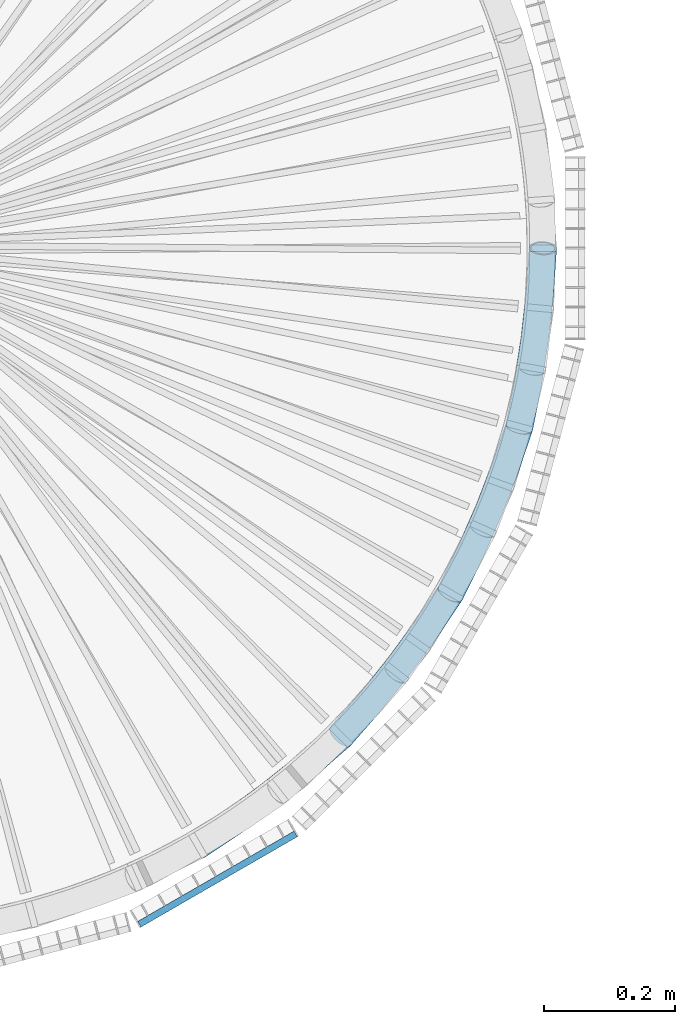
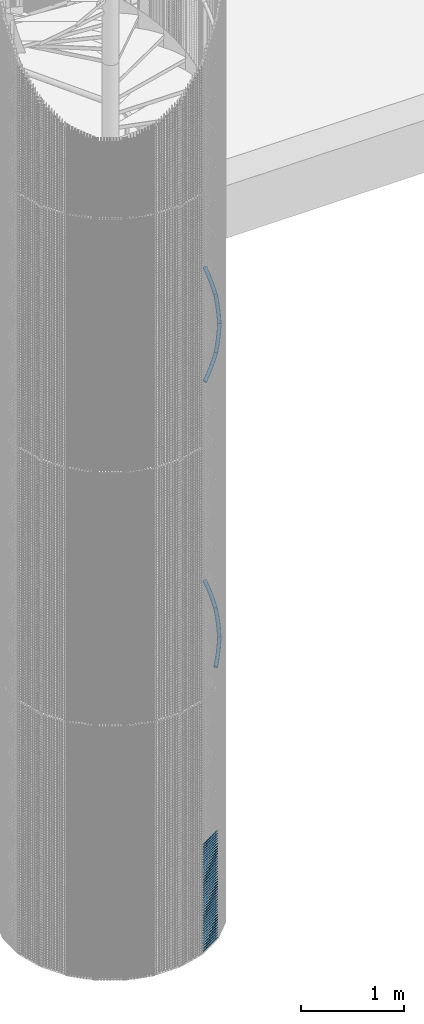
# One storey, part 259 of 1148: 43 beams, 7 members, 8 elements without a shape of their own.
"""IFC2X3 building model written with IfcOpenShell, lengths in millimetres."""

from ifc_helpers import new_model, entity, si_unit, frame, origin_with_axes, origin_2d_with_axis, place, context, subcontext, project, spatial, rectangle, extrude, material, type_object, element, aggregate, save


model = new_model("IFC2X3")

# Units and contexts
model_context = context("Model", 3, precision=1e-05, world=origin_with_axes())
body_context = subcontext(model_context, "Body", "Model", "MODEL_VIEW")
ifc_project = project(units=[si_unit("LENGTHUNIT", "METRE", prefix="MILLI"), si_unit("AREAUNIT", "SQUARE_METRE"), si_unit("VOLUMEUNIT", "CUBIC_METRE"), si_unit("MASSUNIT", "GRAM", prefix="KILO"), si_unit("TIMEUNIT", "SECOND"), si_unit("PLANEANGLEUNIT", "RADIAN"), si_unit("SOLIDANGLEUNIT", "STERADIAN"), si_unit("THERMODYNAMICTEMPERATUREUNIT", "DEGREE_CELSIUS"), si_unit("LUMINOUSINTENSITYUNIT", "LUMEN")], contexts=[model_context])

# Site, building, storey
site_placement = place(None, origin_with_axes())
site = spatial("IfcSite", under=ifc_project, at=site_placement, Name="Undefined", CompositionType="ELEMENT")
building_placement = place(site_placement, origin_with_axes())
building = spatial("IfcBuilding", under=site, at=building_placement, Name="Undefined", CompositionType="ELEMENT")
storey_placement = place(building_placement, origin_with_axes())
storey = spatial("IfcBuildingStorey", under=building, at=storey_placement, Name="Undefined", CompositionType="ELEMENT", Elevation=0.0)

# Assembly, beams
assembly_1_placement = place(storey_placement, origin_with_axes())
assembly_1 = element("IfcElementAssembly", 1, at=assembly_1_placement, inside=storey, Name="BORDURE", AssemblyPlace="NOTDEFINED", PredefinedType="NOTDEFINED")
ifc_material = material(Name="STEEL/S235JR")
beam_type = type_object("IfcBeamType", Name="PL2*10", PredefinedType="NOTDEFINED")
beam_1_placement = place(assembly_1_placement, frame((437.231955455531, -1033.29996828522, 1290.0), z_axis=(0.499999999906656, -0.866025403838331, 0.0), x_axis=(0.866025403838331, 0.499999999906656, 0.0)))
beam_1 = element("IfcBeam", 2, at=beam_1_placement, type_object=beam_type, material=ifc_material, Name="ENTRETOISE", context=body_context, shape_type="SweptSolid", body=[
    extrude(rectangle(XDim=2.0, YDim=10.0, at=origin_2d_with_axis()), frame((275.999999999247, 9.09494701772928e-13, 1.53210777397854e-14), z_axis=(-1.0, 0.0, 0.0), x_axis=(0.0, -1.0, 0.0)), (0.0, 0.0, 1.0), 276.0),
])
beam_2_placement = place(assembly_1_placement, frame((437.231955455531, -1033.29996828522, 1260.0), z_axis=(0.499999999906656, -0.866025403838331, 0.0), x_axis=(0.866025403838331, 0.499999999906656, 0.0)))
beam_2 = element("IfcBeam", 3, at=beam_2_placement, type_object=beam_type, material=ifc_material, Name="ENTRETOISE", context=body_context, shape_type="SweptSolid", body=[
    extrude(rectangle(XDim=2.0, YDim=10.0, at=origin_2d_with_axis()), frame((275.999999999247, 9.09494701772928e-13, 1.53210777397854e-14), z_axis=(-1.0, 0.0, 0.0), x_axis=(0.0, -1.0, 0.0)), (0.0, 0.0, 1.0), 276.0),
])
beam_3_placement = place(assembly_1_placement, frame((437.231955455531, -1033.29996828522, 1230.0), z_axis=(0.499999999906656, -0.866025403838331, 0.0), x_axis=(0.866025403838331, 0.499999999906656, 0.0)))
beam_3 = element("IfcBeam", 4, at=beam_3_placement, type_object=beam_type, material=ifc_material, Name="ENTRETOISE", context=body_context, shape_type="SweptSolid", body=[
    extrude(rectangle(XDim=2.0, YDim=10.0, at=origin_2d_with_axis()), frame((275.999999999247, 9.09494701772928e-13, 1.53210777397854e-14), z_axis=(-1.0, 0.0, 0.0), x_axis=(0.0, -1.0, 0.0)), (0.0, 0.0, 1.0), 276.0),
])
beam_4_placement = place(assembly_1_placement, frame((437.231955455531, -1033.29996828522, 1200.0), z_axis=(0.499999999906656, -0.866025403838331, 0.0), x_axis=(0.866025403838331, 0.499999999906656, 0.0)))
beam_4 = element("IfcBeam", 5, at=beam_4_placement, type_object=beam_type, material=ifc_material, Name="ENTRETOISE", context=body_context, shape_type="SweptSolid", body=[
    extrude(rectangle(XDim=2.0, YDim=10.0, at=origin_2d_with_axis()), frame((275.999999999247, 9.09494701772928e-13, 1.53210777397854e-14), z_axis=(-1.0, 0.0, 0.0), x_axis=(0.0, -1.0, 0.0)), (0.0, 0.0, 1.0), 276.0),
])
beam_5_placement = place(assembly_1_placement, frame((437.231955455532, -1033.29996828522, 1170.0), z_axis=(0.499999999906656, -0.866025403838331, 0.0), x_axis=(0.866025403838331, 0.499999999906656, 0.0)))
beam_5 = element("IfcBeam", 6, at=beam_5_placement, type_object=beam_type, material=ifc_material, Name="ENTRETOISE", context=body_context, shape_type="SweptSolid", body=[
    extrude(rectangle(XDim=2.0, YDim=10.0, at=origin_2d_with_axis()), frame((275.999999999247, 9.09494701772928e-13, 1.53210777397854e-14), z_axis=(-1.0, 0.0, 0.0), x_axis=(0.0, -1.0, 0.0)), (0.0, 0.0, 1.0), 276.0),
])
beam_6_placement = place(assembly_1_placement, frame((437.231955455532, -1033.29996828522, 1140.0), z_axis=(0.499999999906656, -0.866025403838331, 0.0), x_axis=(0.866025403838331, 0.499999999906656, 0.0)))
beam_6 = element("IfcBeam", 7, at=beam_6_placement, type_object=beam_type, material=ifc_material, Name="ENTRETOISE", context=body_context, shape_type="SweptSolid", body=[
    extrude(rectangle(XDim=2.0, YDim=10.0, at=origin_2d_with_axis()), frame((275.999999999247, 9.09494701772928e-13, 1.53210777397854e-14), z_axis=(-1.0, 0.0, 0.0), x_axis=(0.0, -1.0, 0.0)), (0.0, 0.0, 1.0), 276.0),
])
beam_7_placement = place(assembly_1_placement, frame((437.231955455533, -1033.29996828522, 719.999999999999), z_axis=(0.499999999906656, -0.866025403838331, 0.0), x_axis=(0.866025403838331, 0.499999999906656, 0.0)))
beam_7 = element("IfcBeam", 8, at=beam_7_placement, type_object=beam_type, material=ifc_material, Name="ENTRETOISE", context=body_context, shape_type="SweptSolid", body=[
    extrude(rectangle(XDim=2.0, YDim=10.0, at=origin_2d_with_axis()), frame((275.999999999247, 9.09494701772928e-13, 1.53210777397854e-14), z_axis=(-1.0, 0.0, 0.0), x_axis=(0.0, -1.0, 0.0)), (0.0, 0.0, 1.0), 276.0),
])
beam_8_placement = place(assembly_1_placement, frame((437.231955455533, -1033.29996828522, 689.999999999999), z_axis=(0.499999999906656, -0.866025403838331, 0.0), x_axis=(0.866025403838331, 0.499999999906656, 0.0)))
beam_8 = element("IfcBeam", 9, at=beam_8_placement, type_object=beam_type, material=ifc_material, Name="ENTRETOISE", context=body_context, shape_type="SweptSolid", body=[
    extrude(rectangle(XDim=2.0, YDim=10.0, at=origin_2d_with_axis()), frame((275.999999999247, 9.09494701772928e-13, 1.53210777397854e-14), z_axis=(-1.0, 0.0, 0.0), x_axis=(0.0, -1.0, 0.0)), (0.0, 0.0, 1.0), 276.0),
])
beam_9_placement = place(assembly_1_placement, frame((437.231955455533, -1033.29996828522, 749.999999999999), z_axis=(0.499999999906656, -0.866025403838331, 0.0), x_axis=(0.866025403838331, 0.499999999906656, 0.0)))
beam_9 = element("IfcBeam", 10, at=beam_9_placement, type_object=beam_type, material=ifc_material, Name="ENTRETOISE", context=body_context, shape_type="SweptSolid", body=[
    extrude(rectangle(XDim=2.0, YDim=10.0, at=origin_2d_with_axis()), frame((275.999999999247, 9.09494701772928e-13, 1.53210777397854e-14), z_axis=(-1.0, 0.0, 0.0), x_axis=(0.0, -1.0, 0.0)), (0.0, 0.0, 1.0), 276.0),
])
beam_10_placement = place(assembly_1_placement, frame((437.231955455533, -1033.29996828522, 659.999999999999), z_axis=(0.499999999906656, -0.866025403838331, 0.0), x_axis=(0.866025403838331, 0.499999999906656, 0.0)))
beam_10 = element("IfcBeam", 11, at=beam_10_placement, type_object=beam_type, material=ifc_material, Name="ENTRETOISE", context=body_context, shape_type="SweptSolid", body=[
    extrude(rectangle(XDim=2.0, YDim=10.0, at=origin_2d_with_axis()), frame((275.999999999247, 9.09494701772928e-13, 1.53210777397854e-14), z_axis=(-1.0, 0.0, 0.0), x_axis=(0.0, -1.0, 0.0)), (0.0, 0.0, 1.0), 276.0),
])
beam_11_placement = place(assembly_1_placement, frame((437.231955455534, -1033.29996828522, 629.999999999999), z_axis=(0.499999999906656, -0.866025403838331, 0.0), x_axis=(0.866025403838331, 0.499999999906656, 0.0)))
beam_11 = element("IfcBeam", 12, at=beam_11_placement, type_object=beam_type, material=ifc_material, Name="ENTRETOISE", context=body_context, shape_type="SweptSolid", body=[
    extrude(rectangle(XDim=2.0, YDim=10.0, at=origin_2d_with_axis()), frame((275.999999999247, 9.09494701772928e-13, 1.53210777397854e-14), z_axis=(-1.0, 0.0, 0.0), x_axis=(0.0, -1.0, 0.0)), (0.0, 0.0, 1.0), 276.0),
])
beam_12_placement = place(assembly_1_placement, frame((437.231955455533, -1033.29996828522, 779.999999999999), z_axis=(0.499999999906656, -0.866025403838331, 0.0), x_axis=(0.866025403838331, 0.499999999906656, 0.0)))
beam_12 = element("IfcBeam", 13, at=beam_12_placement, type_object=beam_type, material=ifc_material, Name="ENTRETOISE", context=body_context, shape_type="SweptSolid", body=[
    extrude(rectangle(XDim=2.0, YDim=10.0, at=origin_2d_with_axis()), frame((275.999999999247, 9.09494701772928e-13, 1.53210777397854e-14), z_axis=(-1.0, 0.0, 0.0), x_axis=(0.0, -1.0, 0.0)), (0.0, 0.0, 1.0), 276.0),
])
beam_13_placement = place(assembly_1_placement, frame((437.231955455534, -1033.29996828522, 599.999999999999), z_axis=(0.499999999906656, -0.866025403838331, 0.0), x_axis=(0.866025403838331, 0.499999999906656, 0.0)))
beam_13 = element("IfcBeam", 14, at=beam_13_placement, type_object=beam_type, material=ifc_material, Name="ENTRETOISE", context=body_context, shape_type="SweptSolid", body=[
    extrude(rectangle(XDim=2.0, YDim=10.0, at=origin_2d_with_axis()), frame((275.999999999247, 9.09494701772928e-13, 1.53210777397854e-14), z_axis=(-1.0, 0.0, 0.0), x_axis=(0.0, -1.0, 0.0)), (0.0, 0.0, 1.0), 276.0),
])
beam_14_placement = place(assembly_1_placement, frame((437.231955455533, -1033.29996828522, 809.999999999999), z_axis=(0.499999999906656, -0.866025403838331, 0.0), x_axis=(0.866025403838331, 0.499999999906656, 0.0)))
beam_14 = element("IfcBeam", 15, at=beam_14_placement, type_object=beam_type, material=ifc_material, Name="ENTRETOISE", context=body_context, shape_type="SweptSolid", body=[
    extrude(rectangle(XDim=2.0, YDim=10.0, at=origin_2d_with_axis()), frame((275.999999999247, 9.09494701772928e-13, 1.53210777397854e-14), z_axis=(-1.0, 0.0, 0.0), x_axis=(0.0, -1.0, 0.0)), (0.0, 0.0, 1.0), 276.0),
])
beam_15_placement = place(assembly_1_placement, frame((437.231955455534, -1033.29996828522, 569.999999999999), z_axis=(0.499999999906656, -0.866025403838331, 0.0), x_axis=(0.866025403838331, 0.499999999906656, 0.0)))
beam_15 = element("IfcBeam", 16, at=beam_15_placement, type_object=beam_type, material=ifc_material, Name="ENTRETOISE", context=body_context, shape_type="SweptSolid", body=[
    extrude(rectangle(XDim=2.0, YDim=10.0, at=origin_2d_with_axis()), frame((275.999999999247, 9.09494701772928e-13, 1.53210777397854e-14), z_axis=(-1.0, 0.0, 0.0), x_axis=(0.0, -1.0, 0.0)), (0.0, 0.0, 1.0), 276.0),
])
beam_16_placement = place(assembly_1_placement, frame((437.231955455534, -1033.29996828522, 539.999999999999), z_axis=(0.499999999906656, -0.866025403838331, 0.0), x_axis=(0.866025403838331, 0.499999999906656, 0.0)))
beam_16 = element("IfcBeam", 17, at=beam_16_placement, type_object=beam_type, material=ifc_material, Name="ENTRETOISE", context=body_context, shape_type="SweptSolid", body=[
    extrude(rectangle(XDim=2.0, YDim=10.0, at=origin_2d_with_axis()), frame((275.999999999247, 9.09494701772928e-13, 1.53210777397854e-14), z_axis=(-1.0, 0.0, 0.0), x_axis=(0.0, -1.0, 0.0)), (0.0, 0.0, 1.0), 276.0),
])
beam_17_placement = place(assembly_1_placement, frame((437.231955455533, -1033.29996828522, 839.999999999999), z_axis=(0.499999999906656, -0.866025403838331, 0.0), x_axis=(0.866025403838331, 0.499999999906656, 0.0)))
beam_17 = element("IfcBeam", 18, at=beam_17_placement, type_object=beam_type, material=ifc_material, Name="ENTRETOISE", context=body_context, shape_type="SweptSolid", body=[
    extrude(rectangle(XDim=2.0, YDim=10.0, at=origin_2d_with_axis()), frame((275.999999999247, 9.09494701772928e-13, 1.53210777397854e-14), z_axis=(-1.0, 0.0, 0.0), x_axis=(0.0, -1.0, 0.0)), (0.0, 0.0, 1.0), 276.0),
])
beam_18_placement = place(assembly_1_placement, frame((437.231955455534, -1033.29996828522, 509.999999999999), z_axis=(0.499999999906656, -0.866025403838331, 0.0), x_axis=(0.866025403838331, 0.499999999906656, 0.0)))
beam_18 = element("IfcBeam", 19, at=beam_18_placement, type_object=beam_type, material=ifc_material, Name="ENTRETOISE", context=body_context, shape_type="SweptSolid", body=[
    extrude(rectangle(XDim=2.0, YDim=10.0, at=origin_2d_with_axis()), frame((275.999999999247, 9.09494701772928e-13, 1.53210777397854e-14), z_axis=(-1.0, 0.0, 0.0), x_axis=(0.0, -1.0, 0.0)), (0.0, 0.0, 1.0), 276.0),
])
beam_19_placement = place(assembly_1_placement, frame((437.231955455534, -1033.29996828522, 479.999999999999), z_axis=(0.499999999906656, -0.866025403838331, 0.0), x_axis=(0.866025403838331, 0.499999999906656, 0.0)))
beam_19 = element("IfcBeam", 20, at=beam_19_placement, type_object=beam_type, material=ifc_material, Name="ENTRETOISE", context=body_context, shape_type="SweptSolid", body=[
    extrude(rectangle(XDim=2.0, YDim=10.0, at=origin_2d_with_axis()), frame((275.999999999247, 9.09494701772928e-13, 1.53210777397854e-14), z_axis=(-1.0, 0.0, 0.0), x_axis=(0.0, -1.0, 0.0)), (0.0, 0.0, 1.0), 276.0),
])
beam_20_placement = place(assembly_1_placement, frame((437.231955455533, -1033.29996828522, 869.999999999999), z_axis=(0.499999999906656, -0.866025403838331, 0.0), x_axis=(0.866025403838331, 0.499999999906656, 0.0)))
beam_20 = element("IfcBeam", 21, at=beam_20_placement, type_object=beam_type, material=ifc_material, Name="ENTRETOISE", context=body_context, shape_type="SweptSolid", body=[
    extrude(rectangle(XDim=2.0, YDim=10.0, at=origin_2d_with_axis()), frame((275.999999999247, 9.09494701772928e-13, 1.53210777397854e-14), z_axis=(-1.0, 0.0, 0.0), x_axis=(0.0, -1.0, 0.0)), (0.0, 0.0, 1.0), 276.0),
])
beam_21_placement = place(assembly_1_placement, frame((437.231955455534, -1033.29996828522, 449.999999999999), z_axis=(0.499999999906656, -0.866025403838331, 0.0), x_axis=(0.866025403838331, 0.499999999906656, 0.0)))
beam_21 = element("IfcBeam", 22, at=beam_21_placement, type_object=beam_type, material=ifc_material, Name="ENTRETOISE", context=body_context, shape_type="SweptSolid", body=[
    extrude(rectangle(XDim=2.0, YDim=10.0, at=origin_2d_with_axis()), frame((275.999999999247, 9.09494701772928e-13, 1.53210777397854e-14), z_axis=(-1.0, 0.0, 0.0), x_axis=(0.0, -1.0, 0.0)), (0.0, 0.0, 1.0), 276.0),
])
beam_22_placement = place(assembly_1_placement, frame((437.231955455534, -1033.29996828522, 419.999999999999), z_axis=(0.499999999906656, -0.866025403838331, 0.0), x_axis=(0.866025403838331, 0.499999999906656, 0.0)))
beam_22 = element("IfcBeam", 23, at=beam_22_placement, type_object=beam_type, material=ifc_material, Name="ENTRETOISE", context=body_context, shape_type="SweptSolid", body=[
    extrude(rectangle(XDim=2.0, YDim=10.0, at=origin_2d_with_axis()), frame((275.999999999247, 9.09494701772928e-13, 1.53210777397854e-14), z_axis=(-1.0, 0.0, 0.0), x_axis=(0.0, -1.0, 0.0)), (0.0, 0.0, 1.0), 276.0),
])
beam_23_placement = place(assembly_1_placement, frame((437.231955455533, -1033.29996828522, 899.999999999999), z_axis=(0.499999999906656, -0.866025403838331, 0.0), x_axis=(0.866025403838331, 0.499999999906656, 0.0)))
beam_23 = element("IfcBeam", 24, at=beam_23_placement, type_object=beam_type, material=ifc_material, Name="ENTRETOISE", context=body_context, shape_type="SweptSolid", body=[
    extrude(rectangle(XDim=2.0, YDim=10.0, at=origin_2d_with_axis()), frame((275.999999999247, 9.09494701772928e-13, 1.53210777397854e-14), z_axis=(-1.0, 0.0, 0.0), x_axis=(0.0, -1.0, 0.0)), (0.0, 0.0, 1.0), 276.0),
])
beam_24_placement = place(assembly_1_placement, frame((437.231955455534, -1033.29996828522, 389.999999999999), z_axis=(0.499999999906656, -0.866025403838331, 0.0), x_axis=(0.866025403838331, 0.499999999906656, 0.0)))
beam_24 = element("IfcBeam", 25, at=beam_24_placement, type_object=beam_type, material=ifc_material, Name="ENTRETOISE", context=body_context, shape_type="SweptSolid", body=[
    extrude(rectangle(XDim=2.0, YDim=10.0, at=origin_2d_with_axis()), frame((275.999999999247, 9.09494701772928e-13, 1.53210777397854e-14), z_axis=(-1.0, 0.0, 0.0), x_axis=(0.0, -1.0, 0.0)), (0.0, 0.0, 1.0), 276.0),
])
beam_25_placement = place(assembly_1_placement, frame((437.231955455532, -1033.29996828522, 929.999999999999), z_axis=(0.499999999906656, -0.866025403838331, 0.0), x_axis=(0.866025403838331, 0.499999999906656, 0.0)))
beam_25 = element("IfcBeam", 26, at=beam_25_placement, type_object=beam_type, material=ifc_material, Name="ENTRETOISE", context=body_context, shape_type="SweptSolid", body=[
    extrude(rectangle(XDim=2.0, YDim=10.0, at=origin_2d_with_axis()), frame((275.999999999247, 9.09494701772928e-13, 1.53210777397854e-14), z_axis=(-1.0, 0.0, 0.0), x_axis=(0.0, -1.0, 0.0)), (0.0, 0.0, 1.0), 276.0),
])
beam_26_placement = place(assembly_1_placement, frame((437.231955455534, -1033.29996828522, 359.999999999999), z_axis=(0.499999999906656, -0.866025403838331, 0.0), x_axis=(0.866025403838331, 0.499999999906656, 0.0)))
beam_26 = element("IfcBeam", 27, at=beam_26_placement, type_object=beam_type, material=ifc_material, Name="ENTRETOISE", context=body_context, shape_type="SweptSolid", body=[
    extrude(rectangle(XDim=2.0, YDim=10.0, at=origin_2d_with_axis()), frame((275.999999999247, 9.09494701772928e-13, 1.53210777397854e-14), z_axis=(-1.0, 0.0, 0.0), x_axis=(0.0, -1.0, 0.0)), (0.0, 0.0, 1.0), 276.0),
])
beam_27_placement = place(assembly_1_placement, frame((437.231955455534, -1033.29996828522, 329.999999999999), z_axis=(0.499999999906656, -0.866025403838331, 0.0), x_axis=(0.866025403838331, 0.499999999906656, 0.0)))
beam_27 = element("IfcBeam", 28, at=beam_27_placement, type_object=beam_type, material=ifc_material, Name="ENTRETOISE", context=body_context, shape_type="SweptSolid", body=[
    extrude(rectangle(XDim=2.0, YDim=10.0, at=origin_2d_with_axis()), frame((275.999999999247, 9.09494701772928e-13, 1.53210777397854e-14), z_axis=(-1.0, 0.0, 0.0), x_axis=(0.0, -1.0, 0.0)), (0.0, 0.0, 1.0), 276.0),
])
beam_28_placement = place(assembly_1_placement, frame((437.231955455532, -1033.29996828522, 959.999999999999), z_axis=(0.499999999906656, -0.866025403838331, 0.0), x_axis=(0.866025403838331, 0.499999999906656, 0.0)))
beam_28 = element("IfcBeam", 29, at=beam_28_placement, type_object=beam_type, material=ifc_material, Name="ENTRETOISE", context=body_context, shape_type="SweptSolid", body=[
    extrude(rectangle(XDim=2.0, YDim=10.0, at=origin_2d_with_axis()), frame((275.999999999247, 9.09494701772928e-13, 1.53210777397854e-14), z_axis=(-1.0, 0.0, 0.0), x_axis=(0.0, -1.0, 0.0)), (0.0, 0.0, 1.0), 276.0),
])
beam_29_placement = place(assembly_1_placement, frame((437.231955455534, -1033.29996828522, 299.999999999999), z_axis=(0.499999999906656, -0.866025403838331, 0.0), x_axis=(0.866025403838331, 0.499999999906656, 0.0)))
beam_29 = element("IfcBeam", 30, at=beam_29_placement, type_object=beam_type, material=ifc_material, Name="ENTRETOISE", context=body_context, shape_type="SweptSolid", body=[
    extrude(rectangle(XDim=2.0, YDim=10.0, at=origin_2d_with_axis()), frame((275.999999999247, 9.09494701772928e-13, 1.53210777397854e-14), z_axis=(-1.0, 0.0, 0.0), x_axis=(0.0, -1.0, 0.0)), (0.0, 0.0, 1.0), 276.0),
])
beam_30_placement = place(assembly_1_placement, frame((437.231955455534, -1033.29996828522, 269.999999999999), z_axis=(0.499999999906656, -0.866025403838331, 0.0), x_axis=(0.866025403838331, 0.499999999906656, 0.0)))
beam_30 = element("IfcBeam", 31, at=beam_30_placement, type_object=beam_type, material=ifc_material, Name="ENTRETOISE", context=body_context, shape_type="SweptSolid", body=[
    extrude(rectangle(XDim=2.0, YDim=10.0, at=origin_2d_with_axis()), frame((275.999999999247, 9.09494701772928e-13, 1.53210777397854e-14), z_axis=(-1.0, 0.0, 0.0), x_axis=(0.0, -1.0, 0.0)), (0.0, 0.0, 1.0), 276.0),
])
beam_31_placement = place(assembly_1_placement, frame((437.231955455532, -1033.29996828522, 989.999999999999), z_axis=(0.499999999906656, -0.866025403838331, 0.0), x_axis=(0.866025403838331, 0.499999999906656, 0.0)))
beam_31 = element("IfcBeam", 32, at=beam_31_placement, type_object=beam_type, material=ifc_material, Name="ENTRETOISE", context=body_context, shape_type="SweptSolid", body=[
    extrude(rectangle(XDim=2.0, YDim=10.0, at=origin_2d_with_axis()), frame((275.999999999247, 9.09494701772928e-13, 1.53210777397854e-14), z_axis=(-1.0, 0.0, 0.0), x_axis=(0.0, -1.0, 0.0)), (0.0, 0.0, 1.0), 276.0),
])
beam_32_placement = place(assembly_1_placement, frame((437.231955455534, -1033.29996828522, 239.999999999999), z_axis=(0.499999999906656, -0.866025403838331, 0.0), x_axis=(0.866025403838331, 0.499999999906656, 0.0)))
beam_32 = element("IfcBeam", 33, at=beam_32_placement, type_object=beam_type, material=ifc_material, Name="ENTRETOISE", context=body_context, shape_type="SweptSolid", body=[
    extrude(rectangle(XDim=2.0, YDim=10.0, at=origin_2d_with_axis()), frame((275.999999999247, 9.09494701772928e-13, 1.53210777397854e-14), z_axis=(-1.0, 0.0, 0.0), x_axis=(0.0, -1.0, 0.0)), (0.0, 0.0, 1.0), 276.0),
])
beam_33_placement = place(assembly_1_placement, frame((437.231955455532, -1033.29996828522, 1020.0), z_axis=(0.499999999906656, -0.866025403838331, 0.0), x_axis=(0.866025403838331, 0.499999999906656, 0.0)))
beam_33 = element("IfcBeam", 34, at=beam_33_placement, type_object=beam_type, material=ifc_material, Name="ENTRETOISE", context=body_context, shape_type="SweptSolid", body=[
    extrude(rectangle(XDim=2.0, YDim=10.0, at=origin_2d_with_axis()), frame((275.999999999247, 9.09494701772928e-13, 1.53210777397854e-14), z_axis=(-1.0, 0.0, 0.0), x_axis=(0.0, -1.0, 0.0)), (0.0, 0.0, 1.0), 276.0),
])
beam_34_placement = place(assembly_1_placement, frame((437.231955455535, -1033.29996828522, 209.999999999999), z_axis=(0.499999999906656, -0.866025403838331, 0.0), x_axis=(0.866025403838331, 0.499999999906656, 0.0)))
beam_34 = element("IfcBeam", 35, at=beam_34_placement, type_object=beam_type, material=ifc_material, Name="ENTRETOISE", context=body_context, shape_type="SweptSolid", body=[
    extrude(rectangle(XDim=2.0, YDim=10.0, at=origin_2d_with_axis()), frame((275.999999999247, 9.09494701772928e-13, 1.53210777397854e-14), z_axis=(-1.0, 0.0, 0.0), x_axis=(0.0, -1.0, 0.0)), (0.0, 0.0, 1.0), 276.0),
])
beam_35_placement = place(assembly_1_placement, frame((437.231955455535, -1033.29996828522, 179.999999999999), z_axis=(0.499999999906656, -0.866025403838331, 0.0), x_axis=(0.866025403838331, 0.499999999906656, 0.0)))
beam_35 = element("IfcBeam", 36, at=beam_35_placement, type_object=beam_type, material=ifc_material, Name="ENTRETOISE", context=body_context, shape_type="SweptSolid", body=[
    extrude(rectangle(XDim=2.0, YDim=10.0, at=origin_2d_with_axis()), frame((275.999999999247, 9.09494701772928e-13, 1.53210777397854e-14), z_axis=(-1.0, 0.0, 0.0), x_axis=(0.0, -1.0, 0.0)), (0.0, 0.0, 1.0), 276.0),
])
beam_36_placement = place(assembly_1_placement, frame((437.231955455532, -1033.29996828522, 1050.0), z_axis=(0.499999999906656, -0.866025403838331, 0.0), x_axis=(0.866025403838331, 0.499999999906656, 0.0)))
beam_36 = element("IfcBeam", 37, at=beam_36_placement, type_object=beam_type, material=ifc_material, Name="ENTRETOISE", context=body_context, shape_type="SweptSolid", body=[
    extrude(rectangle(XDim=2.0, YDim=10.0, at=origin_2d_with_axis()), frame((275.999999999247, 9.09494701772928e-13, 1.53210777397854e-14), z_axis=(-1.0, 0.0, 0.0), x_axis=(0.0, -1.0, 0.0)), (0.0, 0.0, 1.0), 276.0),
])
beam_37_placement = place(assembly_1_placement, frame((437.231955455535, -1033.29996828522, 149.999999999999), z_axis=(0.499999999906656, -0.866025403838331, 0.0), x_axis=(0.866025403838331, 0.499999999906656, 0.0)))
beam_37 = element("IfcBeam", 38, at=beam_37_placement, type_object=beam_type, material=ifc_material, Name="ENTRETOISE", context=body_context, shape_type="SweptSolid", body=[
    extrude(rectangle(XDim=2.0, YDim=10.0, at=origin_2d_with_axis()), frame((275.999999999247, 9.09494701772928e-13, 1.53210777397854e-14), z_axis=(-1.0, 0.0, 0.0), x_axis=(0.0, -1.0, 0.0)), (0.0, 0.0, 1.0), 276.0),
])
beam_38_placement = place(assembly_1_placement, frame((437.231955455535, -1033.29996828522, 119.999999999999), z_axis=(0.499999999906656, -0.866025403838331, 0.0), x_axis=(0.866025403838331, 0.499999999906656, 0.0)))
beam_38 = element("IfcBeam", 39, at=beam_38_placement, type_object=beam_type, material=ifc_material, Name="ENTRETOISE", context=body_context, shape_type="SweptSolid", body=[
    extrude(rectangle(XDim=2.0, YDim=10.0, at=origin_2d_with_axis()), frame((275.999999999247, 9.09494701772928e-13, 1.53210777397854e-14), z_axis=(-1.0, 0.0, 0.0), x_axis=(0.0, -1.0, 0.0)), (0.0, 0.0, 1.0), 276.0),
])
beam_39_placement = place(assembly_1_placement, frame((437.231955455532, -1033.29996828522, 1080.0), z_axis=(0.499999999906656, -0.866025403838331, 0.0), x_axis=(0.866025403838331, 0.499999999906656, 0.0)))
beam_39 = element("IfcBeam", 40, at=beam_39_placement, type_object=beam_type, material=ifc_material, Name="ENTRETOISE", context=body_context, shape_type="SweptSolid", body=[
    extrude(rectangle(XDim=2.0, YDim=10.0, at=origin_2d_with_axis()), frame((275.999999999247, 9.09494701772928e-13, 1.53210777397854e-14), z_axis=(-1.0, 0.0, 0.0), x_axis=(0.0, -1.0, 0.0)), (0.0, 0.0, 1.0), 276.0),
])
beam_40_placement = place(assembly_1_placement, frame((437.231955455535, -1033.29996828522, 89.9999999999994), z_axis=(0.499999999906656, -0.866025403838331, 0.0), x_axis=(0.866025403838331, 0.499999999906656, 0.0)))
beam_40 = element("IfcBeam", 41, at=beam_40_placement, type_object=beam_type, material=ifc_material, Name="ENTRETOISE", context=body_context, shape_type="SweptSolid", body=[
    extrude(rectangle(XDim=2.0, YDim=10.0, at=origin_2d_with_axis()), frame((275.999999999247, 9.09494701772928e-13, 1.53210777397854e-14), z_axis=(-1.0, 0.0, 0.0), x_axis=(0.0, -1.0, 0.0)), (0.0, 0.0, 1.0), 276.0),
])
beam_41_placement = place(assembly_1_placement, frame((437.231955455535, -1033.29996828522, 59.9999999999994), z_axis=(0.499999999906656, -0.866025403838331, 0.0), x_axis=(0.866025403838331, 0.499999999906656, 0.0)))
beam_41 = element("IfcBeam", 42, at=beam_41_placement, type_object=beam_type, material=ifc_material, Name="ENTRETOISE", context=body_context, shape_type="SweptSolid", body=[
    extrude(rectangle(XDim=2.0, YDim=10.0, at=origin_2d_with_axis()), frame((275.999999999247, 9.09494701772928e-13, 1.53210777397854e-14), z_axis=(-1.0, 0.0, 0.0), x_axis=(0.0, -1.0, 0.0)), (0.0, 0.0, 1.0), 276.0),
])
beam_42_placement = place(assembly_1_placement, frame((437.231955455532, -1033.29996828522, 1110.0), z_axis=(0.499999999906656, -0.866025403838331, 0.0), x_axis=(0.866025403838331, 0.499999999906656, 0.0)))
beam_42 = element("IfcBeam", 43, at=beam_42_placement, type_object=beam_type, material=ifc_material, Name="ENTRETOISE", context=body_context, shape_type="SweptSolid", body=[
    extrude(rectangle(XDim=2.0, YDim=10.0, at=origin_2d_with_axis()), frame((275.999999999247, 9.09494701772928e-13, 1.53210777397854e-14), z_axis=(-1.0, 0.0, 0.0), x_axis=(0.0, -1.0, 0.0)), (0.0, 0.0, 1.0), 276.0),
])
beam_43_placement = place(assembly_1_placement, frame((437.231955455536, -1033.29996828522, 29.9999999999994), z_axis=(0.499999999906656, -0.866025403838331, 0.0), x_axis=(0.866025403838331, 0.499999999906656, 0.0)))
beam_43 = element("IfcBeam", 44, at=beam_43_placement, type_object=beam_type, material=ifc_material, Name="ENTRETOISE", context=body_context, shape_type="SweptSolid", body=[
    extrude(rectangle(XDim=2.0, YDim=10.0, at=origin_2d_with_axis()), frame((275.999999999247, 9.09494701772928e-13, 1.53210777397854e-14), z_axis=(-1.0, 0.0, 0.0), x_axis=(0.0, -1.0, 0.0)), (0.0, 0.0, 1.0), 276.0),
])
aggregate(assembly_1, [beam_1, beam_2, beam_3, beam_4, beam_5, beam_6, beam_7, beam_8, beam_9, beam_10, beam_11, beam_12, beam_13, beam_14, beam_15, beam_16, beam_17, beam_18, beam_19, beam_20, beam_21, beam_22, beam_23, beam_24, beam_25, beam_26, beam_27, beam_28, beam_29, beam_30, beam_31, beam_32, beam_33, beam_34, beam_35, beam_36, beam_37, beam_38, beam_39, beam_40, beam_41, beam_42, beam_43])

# Assembly, member
assembly_2_placement = place(storey_placement, origin_with_axes())
assembly_2 = element("IfcElementAssembly", 45, at=assembly_2_placement, inside=storey, Name="MONTANT", AssemblyPlace="NOTDEFINED", PredefinedType="NOTDEFINED")
member_type = type_object("IfcMemberType", Name="TUBE-42.4*3.2", PredefinedType="NOTDEFINED")
member_1_placement = place(assembly_2_placement, frame((1018.08582091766, -272.795273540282, 7126.27999999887), z_axis=(0.991444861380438, -0.130526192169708, 6.66032065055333e-11), x_axis=(0.113807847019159, 0.864456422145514, 0.489655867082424)))
member_1 = element("IfcMember", 46, at=member_1_placement, type_object=member_type, material=ifc_material, Name="MAIN_COURANTE", context=body_context, shape_type="SweptSolid", body=[
    entity("IfcRevolvedAreaSolid", entity("IfcCircleHollowProfileDef", "AREA", None, entity("IfcAxis2Placement2D", entity("IfcCartesianPoint", [0.0, 0.0]), entity("IfcDirection", [1.0, 0.0])), 21.200000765, 3.200000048), entity("IfcAxis2Placement3D", entity("IfcCartesianPoint", [315.568566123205, -9.09494701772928e-13, -1.31255851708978e-15]), entity("IfcDirection", [-0.997194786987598, -4.44488503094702e-18, 0.0748502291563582]), entity("IfcDirection", [0.0, -1.0, 0.0])), entity("IfcAxis1Placement", entity("IfcCartesianPoint", [0.0, -2108.0, 0.0]), entity("IfcDirection", [1.0, 0.0, 0.0])), 0.149840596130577),
])
aggregate(assembly_2, [member_1])

assembly_3_placement = place(storey_placement, origin_with_axes())
assembly_3 = element("IfcElementAssembly", 47, at=assembly_3_placement, inside=storey, Name="MONTANT", AssemblyPlace="NOTDEFINED", PredefinedType="NOTDEFINED")
member_2_placement = place(assembly_3_placement, frame((912.790775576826, -526.999999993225, 6971.75999999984), z_axis=(0.92387953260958, -0.382683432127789, 1.50206687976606e-10), x_axis=(0.333667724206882, 0.805545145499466, 0.489655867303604)))
member_2 = element("IfcMember", 48, at=member_2_placement, type_object=member_type, material=ifc_material, Name="MAIN_COURANTE", context=body_context, shape_type="SweptSolid", body=[
    entity("IfcRevolvedAreaSolid", entity("IfcCircleHollowProfileDef", "AREA", None, entity("IfcAxis2Placement2D", entity("IfcCartesianPoint", [0.0, 0.0]), entity("IfcDirection", [1.0, 0.0])), 21.200000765, 3.200000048), entity("IfcAxis2Placement3D", entity("IfcCartesianPoint", [315.568566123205, -9.09494701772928e-13, -1.31255851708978e-15]), entity("IfcDirection", [-0.997194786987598, -4.44488503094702e-18, 0.0748502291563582]), entity("IfcDirection", [0.0, -1.0, 0.0])), entity("IfcAxis1Placement", entity("IfcCartesianPoint", [0.0, -2108.0, 0.0]), entity("IfcDirection", [1.0, 0.0, 0.0])), 0.14984059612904),
])
aggregate(assembly_3, [member_2])

assembly_4_placement = place(storey_placement, origin_with_axes())
assembly_4 = element("IfcElementAssembly", 49, at=assembly_4_placement, inside=storey, Name="MONTANT", AssemblyPlace="NOTDEFINED", PredefinedType="NOTDEFINED")
member_3_placement = place(assembly_4_placement, frame((745.290547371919, -745.290547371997, 6817.2400000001), z_axis=(0.793353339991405, -0.608761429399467, 1.80915776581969e-10), x_axis=(0.530788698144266, 0.691737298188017, 0.48965586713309)))
member_3 = element("IfcMember", 50, at=member_3_placement, type_object=member_type, material=ifc_material, Name="MAIN_COURANTE", context=body_context, shape_type="SweptSolid", body=[
    entity("IfcRevolvedAreaSolid", entity("IfcCircleHollowProfileDef", "AREA", None, entity("IfcAxis2Placement2D", entity("IfcCartesianPoint", [0.0, 0.0]), entity("IfcDirection", [1.0, 0.0])), 21.200000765, 3.200000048), entity("IfcAxis2Placement3D", entity("IfcCartesianPoint", [315.568566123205, -9.09494701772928e-13, -1.31255851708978e-15]), entity("IfcDirection", [-0.997194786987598, -4.44488503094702e-18, 0.0748502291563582]), entity("IfcDirection", [0.0, -1.0, 0.0])), entity("IfcAxis1Placement", entity("IfcCartesianPoint", [0.0, -2108.0, 0.0]), entity("IfcDirection", [1.0, 0.0, 0.0])), 0.149840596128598),
])
aggregate(assembly_4, [member_3])

assembly_5_placement = place(storey_placement, origin_with_axes())
assembly_5 = element("IfcElementAssembly", 51, at=assembly_5_placement, inside=storey, Name="MONTANT", AssemblyPlace="NOTDEFINED", PredefinedType="NOTDEFINED")
member_4_placement = place(assembly_5_placement, frame((527.000000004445, -912.790775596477, 6662.71999999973), z_axis=(0.608761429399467, -0.793353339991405, -1.80915776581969e-10), x_axis=(0.691737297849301, 0.530788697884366, 0.489655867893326)))
member_4 = element("IfcMember", 52, at=member_4_placement, type_object=member_type, material=ifc_material, Name="MAIN_COURANTE", context=body_context, shape_type="SweptSolid", body=[
    entity("IfcRevolvedAreaSolid", entity("IfcCircleHollowProfileDef", "AREA", None, entity("IfcAxis2Placement2D", entity("IfcCartesianPoint", [0.0, 0.0]), entity("IfcDirection", [1.0, 0.0])), 21.200000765, 3.200000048), entity("IfcAxis2Placement3D", entity("IfcCartesianPoint", [315.568566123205, -9.09494701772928e-13, -1.31255851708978e-15]), entity("IfcDirection", [-0.997194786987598, -4.44488503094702e-18, 0.0748502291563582]), entity("IfcDirection", [0.0, -1.0, 0.0])), entity("IfcAxis1Placement", entity("IfcCartesianPoint", [0.0, -2108.0, 0.0]), entity("IfcDirection", [1.0, 0.0, 0.0])), 0.149840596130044),
])
aggregate(assembly_5, [member_4])

assembly_6_placement = place(storey_placement, origin_with_axes())
assembly_6 = element("IfcElementAssembly", 53, at=assembly_6_placement, inside=storey, Name="MONTANT", AssemblyPlace="NOTDEFINED", PredefinedType="NOTDEFINED")
member_5_placement = place(assembly_6_placement, frame((1018.08582091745, -272.795273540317, 3417.79999999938), z_axis=(0.991444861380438, -0.130526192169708, 6.66032065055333e-11), x_axis=(0.113807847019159, 0.864456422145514, 0.489655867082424)))
member_5 = element("IfcMember", 54, at=member_5_placement, type_object=member_type, material=ifc_material, Name="MAIN_COURANTE", context=body_context, shape_type="SweptSolid", body=[
    entity("IfcRevolvedAreaSolid", entity("IfcCircleHollowProfileDef", "AREA", None, entity("IfcAxis2Placement2D", entity("IfcCartesianPoint", [0.0, 0.0]), entity("IfcDirection", [1.0, 0.0])), 21.200000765, 3.200000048), entity("IfcAxis2Placement3D", entity("IfcCartesianPoint", [315.568566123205, -9.09494701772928e-13, -1.31255851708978e-15]), entity("IfcDirection", [-0.997194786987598, -4.44488503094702e-18, 0.0748502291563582]), entity("IfcDirection", [0.0, -1.0, 0.0])), entity("IfcAxis1Placement", entity("IfcCartesianPoint", [0.0, -2108.0, 0.0]), entity("IfcDirection", [1.0, 0.0, 0.0])), 0.149840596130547),
])
aggregate(assembly_6, [member_5])

assembly_7_placement = place(storey_placement, origin_with_axes())
assembly_7 = element("IfcElementAssembly", 55, at=assembly_7_placement, inside=storey, Name="MONTANT", AssemblyPlace="NOTDEFINED", PredefinedType="NOTDEFINED")
member_6_placement = place(assembly_7_placement, frame((912.790775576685, -526.999999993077, 3263.27999999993), z_axis=(0.92387953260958, -0.382683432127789, 1.50206687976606e-10), x_axis=(0.333667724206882, 0.805545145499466, 0.489655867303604)))
member_6 = element("IfcMember", 56, at=member_6_placement, type_object=member_type, material=ifc_material, Name="MAIN_COURANTE", context=body_context, shape_type="SweptSolid", body=[
    entity("IfcRevolvedAreaSolid", entity("IfcCircleHollowProfileDef", "AREA", None, entity("IfcAxis2Placement2D", entity("IfcCartesianPoint", [0.0, 0.0]), entity("IfcDirection", [1.0, 0.0])), 21.200000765, 3.200000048), entity("IfcAxis2Placement3D", entity("IfcCartesianPoint", [315.568566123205, -9.09494701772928e-13, -1.31255851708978e-15]), entity("IfcDirection", [-0.997194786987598, -4.44488503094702e-18, 0.0748502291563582]), entity("IfcDirection", [0.0, -1.0, 0.0])), entity("IfcAxis1Placement", entity("IfcCartesianPoint", [0.0, -2108.0, 0.0]), entity("IfcDirection", [1.0, 0.0, 0.0])), 0.149840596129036),
])
aggregate(assembly_7, [member_6])

assembly_8_placement = place(storey_placement, origin_with_axes())
assembly_8 = element("IfcElementAssembly", 57, at=assembly_8_placement, inside=storey, Name="MONTANT", AssemblyPlace="NOTDEFINED", PredefinedType="NOTDEFINED")
member_7_placement = place(assembly_8_placement, frame((745.290547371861, -745.290547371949, 3108.76000000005), z_axis=(0.793353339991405, -0.608761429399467, 1.80915776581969e-10), x_axis=(0.530788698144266, 0.691737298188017, 0.48965586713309)))
member_7 = element("IfcMember", 58, at=member_7_placement, type_object=member_type, material=ifc_material, Name="MAIN_COURANTE", context=body_context, shape_type="SweptSolid", body=[
    entity("IfcRevolvedAreaSolid", entity("IfcCircleHollowProfileDef", "AREA", None, entity("IfcAxis2Placement2D", entity("IfcCartesianPoint", [0.0, 0.0]), entity("IfcDirection", [1.0, 0.0])), 21.200000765, 3.200000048), entity("IfcAxis2Placement3D", entity("IfcCartesianPoint", [315.568566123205, -9.09494701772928e-13, -1.31255851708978e-15]), entity("IfcDirection", [-0.997194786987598, -4.44488503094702e-18, 0.0748502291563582]), entity("IfcDirection", [0.0, -1.0, 0.0])), entity("IfcAxis1Placement", entity("IfcCartesianPoint", [0.0, -2108.0, 0.0]), entity("IfcDirection", [1.0, 0.0, 0.0])), 0.149840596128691),
])
aggregate(assembly_8, [member_7])

save(model, "model.ifc")
